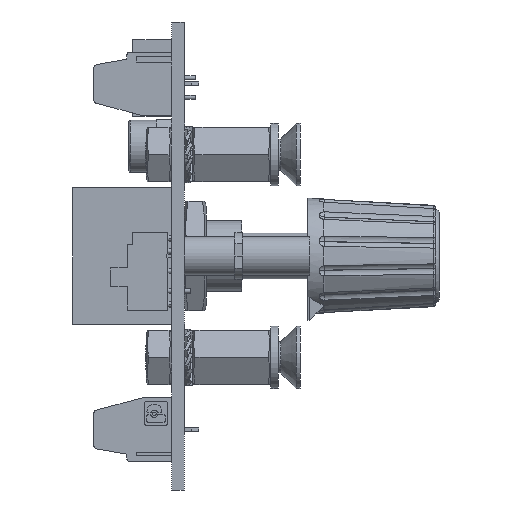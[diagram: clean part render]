
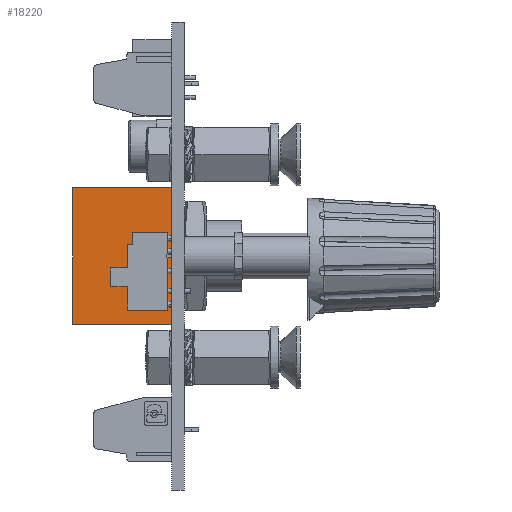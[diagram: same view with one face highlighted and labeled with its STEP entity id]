
A CAD part, left-side view. The second image highlights one B-rep face of the part: STEP entity #18220.
In plain terms, the highlighted planar face has unit normal (-1, 0, 0).
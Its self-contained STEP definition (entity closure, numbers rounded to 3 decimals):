
#18220=ADVANCED_FACE('', (#18230), #18240, .T.);
#88760=AXIS2_PLACEMENT_3D('Ax2Pl3d', #88770, #88780, #88790);
#178900=CARTESIAN_POINT('', (76.069,47.153,59.477))
;
#178910=CARTESIAN_POINT('', (76.069,47.153,41.977))
;
#178920=CARTESIAN_POINT('', (76.069,47.153,41.977))
;
#88770=CARTESIAN_POINT('HicPkt', (76.069,59.853,
59.477));
#183370=CARTESIAN_POINT('', (76.069,59.853,41.977))
;
#183380=CARTESIAN_POINT('', (76.069,59.853,59.477))
;
#183390=CARTESIAN_POINT('', (76.069,59.853,41.977))
;
#183400=CARTESIAN_POINT('', (76.069,47.153,41.977))
;
#183410=CARTESIAN_POINT('', (76.069,47.153,59.477))
;
#310380=DIRECTION('', (0.,0.,-1.));
#88780=DIRECTION('Axis', (-1.,0.,0.)
);
#88790=DIRECTION('RefDirection', (0.,
0.,-1.));
#312860=DIRECTION('', (0.,0.,-1.));
#312870=DIRECTION('', (0.,-1.,0.));
#312880=DIRECTION('', (0.,-1.,0.));
#356220=EDGE_CURVE('', #356200, #356230, #356240, .T.);
#363430=EDGE_CURVE('', #363440, #363450, #363460, .T.);
#363470=EDGE_CURVE('', #363450, #356230, #363480, .T.);
#363490=EDGE_CURVE('', #363440, #356200, #363500, .T.);
#431040=EDGE_LOOP('Edge_loop', (#431050,#431060,#431070,#431080));
#18230=FACE_OUTER_BOUND('Face_outer_bound', #431040, .T.);
#356240=LINE('Line', #178910, #495930);
#363460=LINE('Line', #183370, #498410);
#363480=LINE('Line', #183400, #498420);
#363500=LINE('Line', #183410, #498430);
#431050=ORIENTED_EDGE('', *, *, #363430, .T.);
#431060=ORIENTED_EDGE('', *, *, #363470, .T.);
#431070=ORIENTED_EDGE('', *, *, #356220, .F.);
#431080=ORIENTED_EDGE('', *, *, #363490, .F.);
#18240=PLANE('Plane', #88760);
#495930=VECTOR('', #310380, 17.5);
#498410=VECTOR('', #312860, 17.5);
#498420=VECTOR('', #312870, 12.7);
#498430=VECTOR('', #312880, 12.7);
#356200=VERTEX_POINT('', #178900);
#356230=VERTEX_POINT('', #178920);
#363440=VERTEX_POINT('', #183380);
#363450=VERTEX_POINT('', #183390);
